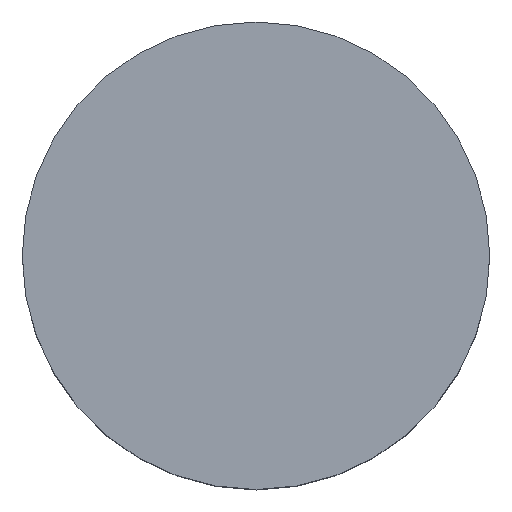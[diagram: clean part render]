
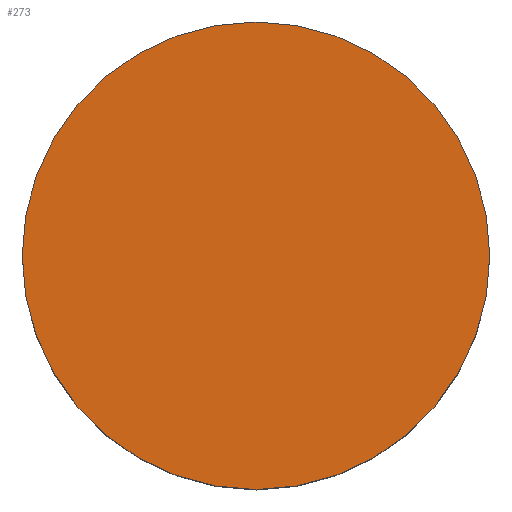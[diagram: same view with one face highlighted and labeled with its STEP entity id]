
A CAD part, top view. The second image highlights one B-rep face of the part: STEP entity #273.
In plain terms, the highlighted planar face has unit normal (0, 0, 1).
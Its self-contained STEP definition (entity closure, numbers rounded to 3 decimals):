
#43=PLANE('',#326);
#65=FACE_OUTER_BOUND('',#96,.T.);
#96=EDGE_LOOP('',(#227));
#137=CIRCLE('',#325,25.75);
#161=VERTEX_POINT('',#496);
#187=EDGE_CURVE('',#161,#161,#137,.T.);
#227=ORIENTED_EDGE('',*,*,#187,.T.);
#273=ADVANCED_FACE('',(#65),#43,.T.);
#325=AXIS2_PLACEMENT_3D('',#497,#418,#419);
#326=AXIS2_PLACEMENT_3D('',#498,#420,#421);
#418=DIRECTION('center_axis',(0.,0.,1.));
#419=DIRECTION('ref_axis',(-1.,0.,0.));
#420=DIRECTION('center_axis',(0.,0.,1.));
#421=DIRECTION('ref_axis',(1.,0.,0.));
#496=CARTESIAN_POINT('',(25.75,0.,31.));
#497=CARTESIAN_POINT('Origin',(0.,0.,31.));
#498=CARTESIAN_POINT('Origin',(0.,0.,
31.));
